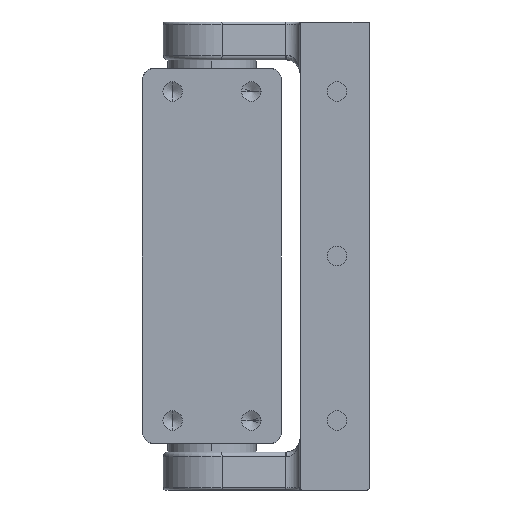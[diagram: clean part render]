
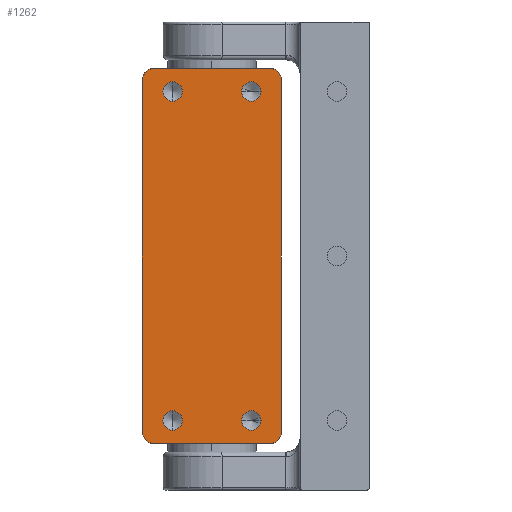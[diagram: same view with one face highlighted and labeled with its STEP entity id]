
A CAD part, front view. The second image highlights one B-rep face of the part: STEP entity #1262.
In plain terms, the highlighted planar face has unit normal (0, -1, 0) as drawn and (0, 0, -1) by its records, which use the part's own axes.
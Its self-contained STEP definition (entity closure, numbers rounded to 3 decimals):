
#93 = EDGE_LOOP ( 'NONE', ( #3709, #3752 ) ) ;
#94 = CARTESIAN_POINT ( 'NONE',  ( -8.5, 35.5, 0. ) ) ;
#139 = CARTESIAN_POINT ( 'NONE',  ( 12.5, -40.5, 0. ) ) ;
#144 = EDGE_CURVE ( 'NONE', #3618, #1994, #1935, .T. ) ;
#167 = CARTESIAN_POINT ( 'NONE',  ( -6.4, -35.5, 0. ) ) ;
#214 = DIRECTION ( 'NONE',  ( -1., 0., 0. ) ) ;
#234 = AXIS2_PLACEMENT_3D ( 'NONE', #534, #1234, #214 ) ;
#251 = EDGE_CURVE ( 'NONE', #2428, #1490, #1241, .T. ) ;
#273 = CARTESIAN_POINT ( 'NONE',  ( 12.5, -40.5, 0. ) ) ;
#301 = EDGE_LOOP ( 'NONE', ( #455, #2643 ) ) ;
#332 = VERTEX_POINT ( 'NONE', #2630 ) ;
#351 = CARTESIAN_POINT ( 'NONE',  ( 6.4, -35.5, 0. ) ) ;
#365 = DIRECTION ( 'NONE',  ( -1., 0., 0. ) ) ;
#375 = EDGE_LOOP ( 'NONE', ( #1736, #1392 ) ) ;
#404 = CARTESIAN_POINT ( 'NONE',  ( -15., 40.5, 0. ) ) ;
#442 = CARTESIAN_POINT ( 'NONE',  ( -10.6, 35.5, 0. ) ) ;
#455 = ORIENTED_EDGE ( 'NONE', *, *, #3346, .F. ) ;
#474 = VECTOR ( 'NONE', #2947, 1000. ) ;
#477 = DIRECTION ( 'NONE',  ( 0., 0., -1. ) ) ;
#492 = AXIS2_PLACEMENT_3D ( 'NONE', #3170, #3230, #885 ) ;
#523 = DIRECTION ( 'NONE',  ( 0., 0., 1. ) ) ;
#534 = CARTESIAN_POINT ( 'NONE',  ( 12.5, -38., 0. ) ) ;
#607 = AXIS2_PLACEMENT_3D ( 'NONE', #2318, #2009, #365 ) ;
#664 = VERTEX_POINT ( 'NONE', #4222 ) ;
#667 = FACE_BOUND ( 'NONE', #1041, .T. ) ;
#770 = DIRECTION ( 'NONE',  ( 0., 0., -1. ) ) ;
#780 = CARTESIAN_POINT ( 'NONE',  ( -15., 38., 0. ) ) ;
#788 = EDGE_LOOP ( 'NONE', ( #3468, #1382, #963, #3533, #2612, #3908, #1036, #2686 ) ) ;
#835 = CARTESIAN_POINT ( 'NONE',  ( 10.6, -35.5, 0. ) ) ;
#885 = DIRECTION ( 'NONE',  ( 1., 0., 0. ) ) ;
#933 = LINE ( 'NONE', #3814, #1203 ) ;
#937 = VERTEX_POINT ( 'NONE', #167 ) ;
#963 = ORIENTED_EDGE ( 'NONE', *, *, #4022, .F. ) ;
#1036 = ORIENTED_EDGE ( 'NONE', *, *, #251, .F. ) ;
#1041 = EDGE_LOOP ( 'NONE', ( #4166, #3872 ) ) ;
#1069 = AXIS2_PLACEMENT_3D ( 'NONE', #1722, #3990, #3291 ) ;
#1203 = VECTOR ( 'NONE', #3498, 1000. ) ;
#1234 = DIRECTION ( 'NONE',  ( 0., 0., 1. ) ) ;
#1241 = CIRCLE ( 'NONE', #492, 2.5 ) ;
#1262 = ADVANCED_FACE ( 'NONE', ( #3011, #2003, #3315, #667, #4014 ), #2360, .F. ) ;
#1263 = EDGE_CURVE ( 'NONE', #2472, #332, #1622, .T. ) ;
#1283 = VERTEX_POINT ( 'NONE', #1979 ) ;
#1285 = AXIS2_PLACEMENT_3D ( 'NONE', #4065, #1404, #2716 ) ;
#1296 = CIRCLE ( 'NONE', #2394, 2.1 ) ;
#1344 = EDGE_CURVE ( 'NONE', #664, #2619, #933, .T. ) ;
#1372 = EDGE_CURVE ( 'NONE', #2015, #664, #1899, .T. ) ;
#1382 = ORIENTED_EDGE ( 'NONE', *, *, #4050, .F. ) ;
#1392 = ORIENTED_EDGE ( 'NONE', *, *, #2133, .F. ) ;
#1404 = DIRECTION ( 'NONE',  ( 0., 0., -1. ) ) ;
#1437 = DIRECTION ( 'NONE',  ( -1., 0., 0. ) ) ;
#1486 = AXIS2_PLACEMENT_3D ( 'NONE', #3391, #2798, #2451 ) ;
#1488 = VERTEX_POINT ( 'NONE', #2525 ) ;
#1490 = VERTEX_POINT ( 'NONE', #2161 ) ;
#1511 = CARTESIAN_POINT ( 'NONE',  ( -12.5, -40.5, 0. ) ) ;
#1582 = DIRECTION ( 'NONE',  ( 0., 0., -1. ) ) ;
#1622 = CIRCLE ( 'NONE', #1069, 2.1 ) ;
#1668 = AXIS2_PLACEMENT_3D ( 'NONE', #2112, #523, #2762 ) ;
#1674 = DIRECTION ( 'NONE',  ( 0., 0., 1. ) ) ;
#1698 = CIRCLE ( 'NONE', #1285, 2.1 ) ;
#1712 = CARTESIAN_POINT ( 'NONE',  ( 15., 38., 0. ) ) ;
#1722 = CARTESIAN_POINT ( 'NONE',  ( 8.5, 35.5, 0. ) ) ;
#1736 = ORIENTED_EDGE ( 'NONE', *, *, #3354, .F. ) ;
#1777 = AXIS2_PLACEMENT_3D ( 'NONE', #3225, #1582, #2899 ) ;
#1843 = CIRCLE ( 'NONE', #2669, 2.1 ) ;
#1850 = EDGE_CURVE ( 'NONE', #3742, #2585, #1698, .T. ) ;
#1875 = EDGE_CURVE ( 'NONE', #2335, #3527, #3357, .T. ) ;
#1899 = CIRCLE ( 'NONE', #234, 2.5 ) ;
#1912 = CIRCLE ( 'NONE', #607, 2.1 ) ;
#1935 = CIRCLE ( 'NONE', #1668, 2.5 ) ;
#1979 = CARTESIAN_POINT ( 'NONE',  ( -10.6, -35.5, 0. ) ) ;
#1989 = CIRCLE ( 'NONE', #2528, 2.1 ) ;
#1994 = VERTEX_POINT ( 'NONE', #780 ) ;
#2003 = FACE_BOUND ( 'NONE', #301, .T. ) ;
#2009 = DIRECTION ( 'NONE',  ( 0., 0., -1. ) ) ;
#2015 = VERTEX_POINT ( 'NONE', #139 ) ;
#2057 = B_SPLINE_CURVE_WITH_KNOTS ( 'NONE', 1,
 ( #1511, #273 ),
 .UNSPECIFIED., .F., .F.,
 ( 2, 2 ),
 ( 0., 1. ),
 .UNSPECIFIED. ) ;
#2103 = CARTESIAN_POINT ( 'NONE',  ( -6.4, 35.5, 0. ) ) ;
#2112 = CARTESIAN_POINT ( 'NONE',  ( -12.5, 38., 0. ) ) ;
#2133 = EDGE_CURVE ( 'NONE', #937, #1283, #2172, .T. ) ;
#2161 = CARTESIAN_POINT ( 'NONE',  ( -12.5, -40.5, 0. ) ) ;
#2172 = CIRCLE ( 'NONE', #1777, 2.1 ) ;
#2175 = EDGE_CURVE ( 'NONE', #3527, #2335, #1843, .T. ) ;
#2275 = DIRECTION ( 'NONE',  ( 0., 0., -1. ) ) ;
#2301 = CARTESIAN_POINT ( 'NONE',  ( -15., 40.5, 0. ) ) ;
#2318 = CARTESIAN_POINT ( 'NONE',  ( -8.5, -35.5, 0. ) ) ;
#2335 = VERTEX_POINT ( 'NONE', #442 ) ;
#2360 = PLANE ( 'NONE',  #3897 ) ;
#2363 = CARTESIAN_POINT ( 'NONE',  ( 12.5, 38., 0. ) ) ;
#2394 = AXIS2_PLACEMENT_3D ( 'NONE', #3616, #2275, #3270 ) ;
#2428 = VERTEX_POINT ( 'NONE', #3470 ) ;
#2451 = DIRECTION ( 'NONE',  ( -1., 0., 0. ) ) ;
#2472 = VERTEX_POINT ( 'NONE', #3517 ) ;
#2525 = CARTESIAN_POINT ( 'NONE',  ( 12.5, 40.5, 0. ) ) ;
#2528 = AXIS2_PLACEMENT_3D ( 'NONE', #3125, #477, #4105 ) ;
#2585 = VERTEX_POINT ( 'NONE', #351 ) ;
#2612 = ORIENTED_EDGE ( 'NONE', *, *, #1372, .F. ) ;
#2619 = VERTEX_POINT ( 'NONE', #1712 ) ;
#2630 = CARTESIAN_POINT ( 'NONE',  ( 6.4, 35.5, 0. ) ) ;
#2633 = DIRECTION ( 'NONE',  ( 0., -1., 0. ) ) ;
#2643 = ORIENTED_EDGE ( 'NONE', *, *, #1850, .F. ) ;
#2669 = AXIS2_PLACEMENT_3D ( 'NONE', #94, #770, #1437 ) ;
#2673 = CARTESIAN_POINT ( 'NONE',  ( 0., 40.5, 0. ) ) ;
#2686 = ORIENTED_EDGE ( 'NONE', *, *, #2916, .F. ) ;
#2713 = DIRECTION ( 'NONE',  ( 1., 0., 0. ) ) ;
#2716 = DIRECTION ( 'NONE',  ( -1., 0., 0. ) ) ;
#2726 = CARTESIAN_POINT ( 'NONE',  ( -12.5, 40.5, 0. ) ) ;
#2762 = DIRECTION ( 'NONE',  ( -1., 0., 0. ) ) ;
#2798 = DIRECTION ( 'NONE',  ( 0., 0., -1. ) ) ;
#2899 = DIRECTION ( 'NONE',  ( -1., 0., 0. ) ) ;
#2916 = EDGE_CURVE ( 'NONE', #1994, #2428, #4028, .T. ) ;
#2947 = DIRECTION ( 'NONE',  ( -1., 0., 0. ) ) ;
#3011 = FACE_BOUND ( 'NONE', #375, .T. ) ;
#3013 = VECTOR ( 'NONE', #2633, 1000. ) ;
#3125 = CARTESIAN_POINT ( 'NONE',  ( 8.5, 35.5, 0. ) ) ;
#3170 = CARTESIAN_POINT ( 'NONE',  ( -12.5, -38., 0. ) ) ;
#3225 = CARTESIAN_POINT ( 'NONE',  ( -8.5, -35.5, 0. ) ) ;
#3230 = DIRECTION ( 'NONE',  ( 0., 0., 1. ) ) ;
#3270 = DIRECTION ( 'NONE',  ( -1., 0., 0. ) ) ;
#3291 = DIRECTION ( 'NONE',  ( -1., 0., 0. ) ) ;
#3297 = AXIS2_PLACEMENT_3D ( 'NONE', #2363, #3666, #2713 ) ;
#3315 = FACE_BOUND ( 'NONE', #93, .T. ) ;
#3346 = EDGE_CURVE ( 'NONE', #2585, #3742, #1296, .T. ) ;
#3354 = EDGE_CURVE ( 'NONE', #1283, #937, #1912, .T. ) ;
#3357 = CIRCLE ( 'NONE', #1486, 2.1 ) ;
#3391 = CARTESIAN_POINT ( 'NONE',  ( -8.5, 35.5, 0. ) ) ;
#3468 = ORIENTED_EDGE ( 'NONE', *, *, #144, .F. ) ;
#3470 = CARTESIAN_POINT ( 'NONE',  ( -15., -38., 0. ) ) ;
#3498 = DIRECTION ( 'NONE',  ( 0., 1., 0. ) ) ;
#3517 = CARTESIAN_POINT ( 'NONE',  ( 10.6, 35.5, 0. ) ) ;
#3527 = VERTEX_POINT ( 'NONE', #2103 ) ;
#3533 = ORIENTED_EDGE ( 'NONE', *, *, #1344, .F. ) ;
#3616 = CARTESIAN_POINT ( 'NONE',  ( 8.5, -35.5, 0. ) ) ;
#3618 = VERTEX_POINT ( 'NONE', #2726 ) ;
#3644 = LINE ( 'NONE', #2673, #474 ) ;
#3666 = DIRECTION ( 'NONE',  ( 0., 0., 1. ) ) ;
#3680 = DIRECTION ( 'NONE',  ( 1., 0., 0. ) ) ;
#3692 = EDGE_CURVE ( 'NONE', #1490, #2015, #2057, .T. ) ;
#3709 = ORIENTED_EDGE ( 'NONE', *, *, #1875, .F. ) ;
#3742 = VERTEX_POINT ( 'NONE', #835 ) ;
#3752 = ORIENTED_EDGE ( 'NONE', *, *, #2175, .F. ) ;
#3814 = CARTESIAN_POINT ( 'NONE',  ( 15., 40.5, 0. ) ) ;
#3872 = ORIENTED_EDGE ( 'NONE', *, *, #1263, .F. ) ;
#3896 = EDGE_CURVE ( 'NONE', #332, #2472, #1989, .T. ) ;
#3897 = AXIS2_PLACEMENT_3D ( 'NONE', #404, #1674, #3680 ) ;
#3908 = ORIENTED_EDGE ( 'NONE', *, *, #3692, .F. ) ;
#3990 = DIRECTION ( 'NONE',  ( 0., 0., -1. ) ) ;
#3996 = CIRCLE ( 'NONE', #3297, 2.5 ) ;
#4014 = FACE_OUTER_BOUND ( 'NONE', #788, .T. ) ;
#4022 = EDGE_CURVE ( 'NONE', #2619, #1488, #3996, .T. ) ;
#4028 = LINE ( 'NONE', #2301, #3013 ) ;
#4050 = EDGE_CURVE ( 'NONE', #1488, #3618, #3644, .T. ) ;
#4065 = CARTESIAN_POINT ( 'NONE',  ( 8.5, -35.5, 0. ) ) ;
#4105 = DIRECTION ( 'NONE',  ( -1., 0., 0. ) ) ;
#4166 = ORIENTED_EDGE ( 'NONE', *, *, #3896, .F. ) ;
#4222 = CARTESIAN_POINT ( 'NONE',  ( 15., -38., 0. ) ) ;
